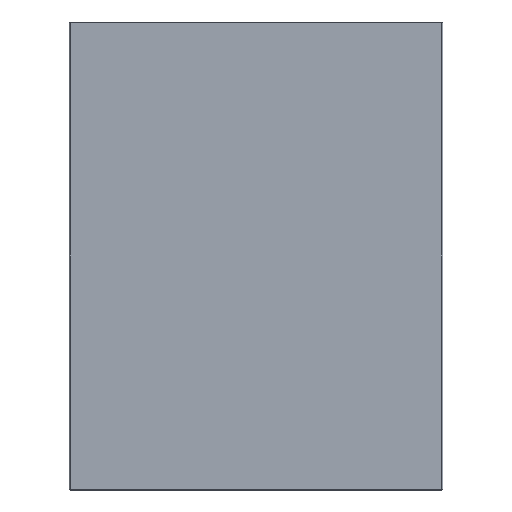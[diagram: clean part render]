
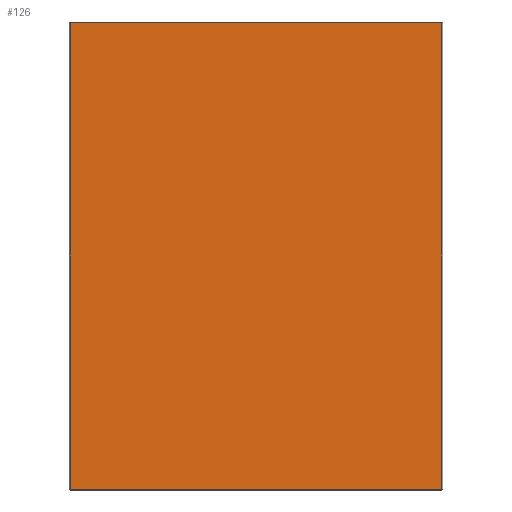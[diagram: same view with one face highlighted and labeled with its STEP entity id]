
A CAD part, front view. The second image highlights one B-rep face of the part: STEP entity #126.
In plain terms, the highlighted planar face has unit normal (0, -1, 0).
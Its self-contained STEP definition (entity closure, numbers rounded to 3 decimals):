
#2 = EDGE_CURVE ( 'NONE', #491, #495, #557, .T. ) ;
#9 = DIRECTION ( 'NONE',  ( 0., 0., 1. ) ) ;
#48 = VECTOR ( 'NONE', #439, 1000. ) ;
#57 = ORIENTED_EDGE ( 'NONE', *, *, #105, .T. ) ;
#84 = ORIENTED_EDGE ( 'NONE', *, *, #2, .T. ) ;
#102 = LINE ( 'NONE', #141, #119 ) ;
#104 = AXIS2_PLACEMENT_3D ( 'NONE', #625, #487, #321 ) ;
#105 = EDGE_CURVE ( 'NONE', #146, #443, #416, .T. ) ;
#119 = VECTOR ( 'NONE', #280, 1000. ) ;
#126 = ADVANCED_FACE ( 'NONE', ( #603 ), #329, .F. ) ;
#141 = CARTESIAN_POINT ( 'NONE',  ( 0., 0., -247. ) ) ;
#146 = VERTEX_POINT ( 'NONE', #227 ) ;
#171 = CARTESIAN_POINT ( 'NONE',  ( 0., 0., 247. ) ) ;
#227 = CARTESIAN_POINT ( 'NONE',  ( 197., 0., -247. ) ) ;
#233 = CARTESIAN_POINT ( 'NONE',  ( -197., 0., -247. ) ) ;
#257 = CARTESIAN_POINT ( 'NONE',  ( 197., 0., 247. ) ) ;
#280 = DIRECTION ( 'NONE',  ( 1., 0., 0. ) ) ;
#284 = EDGE_LOOP ( 'NONE', ( #57, #631, #84, #602 ) ) ;
#286 = VECTOR ( 'NONE', #9, 1000. ) ;
#288 = CARTESIAN_POINT ( 'NONE',  ( -197., 0., 0. ) ) ;
#295 = EDGE_CURVE ( 'NONE', #495, #146, #102, .T. ) ;
#321 = DIRECTION ( 'NONE',  ( 0., 0., 1. ) ) ;
#329 = PLANE ( 'NONE',  #104 ) ;
#392 = CARTESIAN_POINT ( 'NONE',  ( 197., 0., 0. ) ) ;
#410 = DIRECTION ( 'NONE',  ( 0., 0., -1. ) ) ;
#416 = LINE ( 'NONE', #392, #286 ) ;
#439 = DIRECTION ( 'NONE',  ( -1., 0., 0. ) ) ;
#443 = VERTEX_POINT ( 'NONE', #257 ) ;
#463 = LINE ( 'NONE', #171, #48 ) ;
#487 = DIRECTION ( 'NONE',  ( 0., 1., 0. ) ) ;
#491 = VERTEX_POINT ( 'NONE', #493 ) ;
#493 = CARTESIAN_POINT ( 'NONE',  ( -197., 0., 247. ) ) ;
#495 = VERTEX_POINT ( 'NONE', #233 ) ;
#557 = LINE ( 'NONE', #288, #638 ) ;
#575 = EDGE_CURVE ( 'NONE', #443, #491, #463, .T. ) ;
#602 = ORIENTED_EDGE ( 'NONE', *, *, #295, .T. ) ;
#603 = FACE_OUTER_BOUND ( 'NONE', #284, .T. ) ;
#625 = CARTESIAN_POINT ( 'NONE',  ( 0., 0., 0. ) ) ;
#631 = ORIENTED_EDGE ( 'NONE', *, *, #575, .T. ) ;
#638 = VECTOR ( 'NONE', #410, 1000. ) ;
